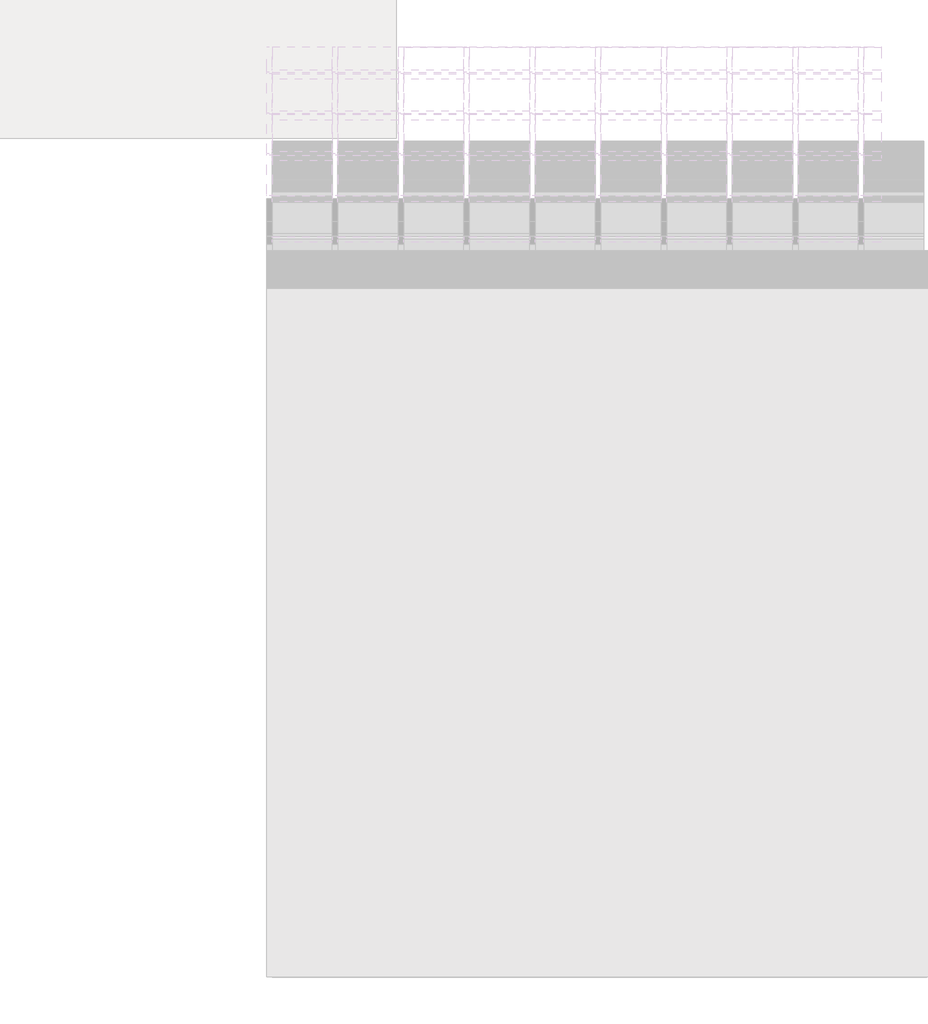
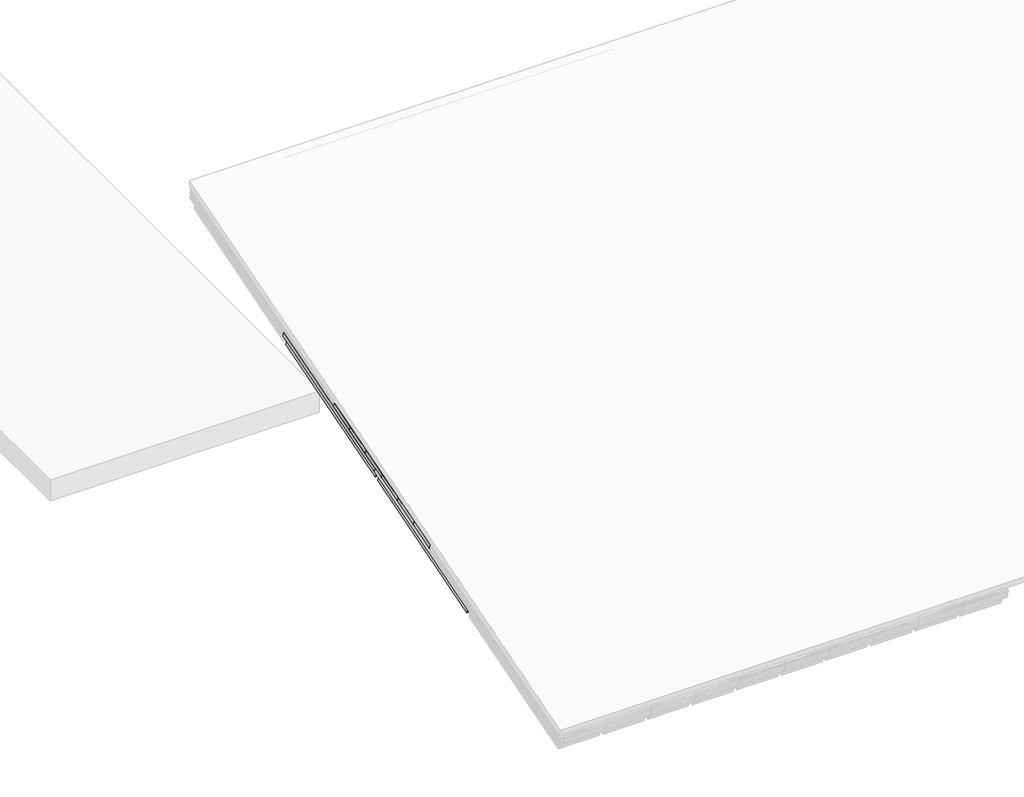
# One storey, part 9 of 57: 84 members, 39 plates.
"""IFC4 building model written with IfcOpenShell, lengths in millimetres."""

from ifc_helpers import new_model, si_unit, origin, place, context, project, spatial, transform, mapped, element, save
from components import rectangular_mullion_59984080, rectangular_mullion_2d2423ea, rectangular_mullion_caibro_e4384bba, rectangular_mullion_caibro_22b168a6, rectangular_mullion_caibro_0993a3cf, rectangular_mullion_caibro_9bd7bc61, rectangular_mullion_caibro_65769db4, empty_system_panel_vazio_178faf58, empty_system_panel_vazio_2c78850d

model = new_model("IFC4")

# Units and contexts
model_context = context("Model", 3, world=origin())
ifc_project = project(units=[si_unit("LENGTHUNIT", "METRE", prefix="MILLI")], contexts=[model_context])

# Site, building, storey
site = spatial("IfcSite", under=ifc_project)
building = spatial("IfcBuilding", under=site)
storey = spatial("IfcBuildingStorey", under=building, Name="Nível 2", Elevation=4100.0)

# Members
placement = place(None, origin())
rectangular_mullion_shape = rectangular_mullion_59984080(model_context)
element("IfcMember", 1, ObjectType="Rectangular Mullion : Ripa", at=placement, inside=storey, context=model_context, shape_type="MappedRepresentation", body=[
    mapped(rectangular_mullion_shape, transform((4164.8996779, 8162.5832694, 3598.8241594), x_axis=(0.0, 0.9578262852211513, 0.2873478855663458), y_axis=(0.0, 0.2873478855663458, -0.9578262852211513), z_axis=(-1.0, 0.0, 0.0))),
])
element("IfcMember", 2, ObjectType="Rectangular Mullion : Ripa", at=placement, inside=storey, context=model_context, shape_type="MappedRepresentation", body=[
    mapped(rectangular_mullion_shape, transform((4761.9544343, 8162.5832694, 3598.8241594), x_axis=(0.0, 0.9578262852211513, 0.2873478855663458), y_axis=(0.0, 0.2873478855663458, -0.9578262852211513), z_axis=(-1.0, 0.0, 0.0))),
])
element("IfcMember", 3, ObjectType="Rectangular Mullion : Ripa", at=placement, inside=storey, context=model_context, shape_type="MappedRepresentation", body=[
    mapped(rectangular_mullion_shape, transform((4164.8996779, 8532.7605281, 3709.877337), x_axis=(0.0, 0.9578262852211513, 0.2873478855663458), y_axis=(0.0, 0.2873478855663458, -0.9578262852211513), z_axis=(-1.0, 0.0, 0.0))),
])
element("IfcMember", 4, ObjectType="Rectangular Mullion : Ripa", at=placement, inside=storey, context=model_context, shape_type="MappedRepresentation", body=[
    mapped(rectangular_mullion_shape, transform((4761.9544343, 8532.7605281, 3709.877337), x_axis=(0.0, 0.9578262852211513, 0.2873478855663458), y_axis=(0.0, 0.2873478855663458, -0.9578262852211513), z_axis=(-1.0, 0.0, 0.0))),
])
element("IfcMember", 5, ObjectType="Rectangular Mullion : Ripa", at=placement, inside=storey, context=model_context, shape_type="MappedRepresentation", body=[
    mapped(rectangular_mullion_shape, transform((4164.8996779, 8902.9377868, 3820.9305146), x_axis=(0.0, 0.9578262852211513, 0.2873478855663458), y_axis=(0.0, 0.2873478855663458, -0.9578262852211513), z_axis=(-1.0, 0.0, 0.0))),
])
element("IfcMember", 6, ObjectType="Rectangular Mullion : Ripa", at=placement, inside=storey, context=model_context, shape_type="MappedRepresentation", body=[
    mapped(rectangular_mullion_shape, transform((4761.9544343, 8902.9377868, 3820.9305146), x_axis=(0.0, 0.9578262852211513, 0.2873478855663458), y_axis=(0.0, 0.2873478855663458, -0.9578262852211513), z_axis=(-1.0, 0.0, 0.0))),
])
element("IfcMember", 7, ObjectType="Rectangular Mullion : Ripa", at=placement, inside=storey, context=model_context, shape_type="MappedRepresentation", body=[
    mapped(rectangular_mullion_shape, transform((2373.7354086, 9273.1150454, 3931.9836922), x_axis=(0.0, 0.9578262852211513, 0.2873478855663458), y_axis=(0.0, 0.2873478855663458, -0.9578262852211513), z_axis=(-1.0, 0.0, 0.0))),
])
element("IfcMember", 8, ObjectType="Rectangular Mullion : Ripa", at=placement, inside=storey, context=model_context, shape_type="MappedRepresentation", body=[
    mapped(rectangular_mullion_shape, transform((2970.790165, 9273.1150454, 3931.9836922), x_axis=(0.0, 0.9578262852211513, 0.2873478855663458), y_axis=(0.0, 0.2873478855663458, -0.9578262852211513), z_axis=(-1.0, 0.0, 0.0))),
])
element("IfcMember", 9, ObjectType="Rectangular Mullion : Ripa", at=placement, inside=storey, context=model_context, shape_type="MappedRepresentation", body=[
    mapped(rectangular_mullion_shape, transform((3567.8449214, 9273.1150454, 3931.9836922), x_axis=(0.0, 0.9578262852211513, 0.2873478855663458), y_axis=(0.0, 0.2873478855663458, -0.9578262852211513), z_axis=(-1.0, 0.0, 0.0))),
])
element("IfcMember", 10, ObjectType="Rectangular Mullion : Ripa", at=placement, inside=storey, context=model_context, shape_type="MappedRepresentation", body=[
    mapped(rectangular_mullion_shape, transform((2373.7354086, 9643.2923041, 4043.0368698), x_axis=(0.0, 0.9578262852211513, 0.2873478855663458), y_axis=(0.0, 0.2873478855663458, -0.9578262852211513), z_axis=(-1.0, 0.0, 0.0))),
])
element("IfcMember", 11, ObjectType="Rectangular Mullion : Ripa", at=placement, inside=storey, context=model_context, shape_type="MappedRepresentation", body=[
    mapped(rectangular_mullion_shape, transform((2970.790165, 9643.2923041, 4043.0368698), x_axis=(0.0, 0.9578262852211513, 0.2873478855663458), y_axis=(0.0, 0.2873478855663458, -0.9578262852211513), z_axis=(-1.0, 0.0, 0.0))),
])
element("IfcMember", 12, ObjectType="Rectangular Mullion : Ripa", at=placement, inside=storey, context=model_context, shape_type="MappedRepresentation", body=[
    mapped(rectangular_mullion_shape, transform((3567.8449214, 9643.2923041, 4043.0368698), x_axis=(0.0, 0.9578262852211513, 0.2873478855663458), y_axis=(0.0, 0.2873478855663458, -0.9578262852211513), z_axis=(-1.0, 0.0, 0.0))),
])
element("IfcMember", 13, ObjectType="Rectangular Mullion : Ripa", at=placement, inside=storey, context=model_context, shape_type="MappedRepresentation", body=[
    mapped(rectangular_mullion_shape, transform((1776.6806519, 10013.4695628, 4154.0900474), x_axis=(0.0, 0.9578262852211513, 0.2873478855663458), y_axis=(0.0, 0.2873478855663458, -0.9578262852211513), z_axis=(-1.0, 0.0, 0.0))),
])
element("IfcMember", 14, ObjectType="Rectangular Mullion : Ripa", at=placement, inside=storey, context=model_context, shape_type="MappedRepresentation", body=[
    mapped(rectangular_mullion_shape, transform((2373.7354086, 10013.4695628, 4154.0900474), x_axis=(0.0, 0.9578262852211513, 0.2873478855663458), y_axis=(0.0, 0.2873478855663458, -0.9578262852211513), z_axis=(-1.0, 0.0, 0.0))),
])
element("IfcMember", 15, ObjectType="Rectangular Mullion : Ripa", at=placement, inside=storey, context=model_context, shape_type="MappedRepresentation", body=[
    mapped(rectangular_mullion_shape, transform((2970.790165, 10013.4695628, 4154.0900474), x_axis=(0.0, 0.9578262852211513, 0.2873478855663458), y_axis=(0.0, 0.2873478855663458, -0.9578262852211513), z_axis=(-1.0, 0.0, 0.0))),
])
element("IfcMember", 16, ObjectType="Rectangular Mullion : Ripa", at=placement, inside=storey, context=model_context, shape_type="MappedRepresentation", body=[
    mapped(rectangular_mullion_shape, transform((3567.8449214, 10013.4695628, 4154.0900474), x_axis=(0.0, 0.9578262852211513, 0.2873478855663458), y_axis=(0.0, 0.2873478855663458, -0.9578262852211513), z_axis=(-1.0, 0.0, 0.0))),
])
element("IfcMember", 17, ObjectType="Rectangular Mullion : Ripa", at=placement, inside=storey, context=model_context, shape_type="MappedRepresentation", body=[
    mapped(rectangular_mullion_shape, transform((1776.6806519, 10383.6468214, 4265.143225), x_axis=(0.0, 0.9578262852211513, 0.2873478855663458), y_axis=(0.0, 0.2873478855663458, -0.9578262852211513), z_axis=(-1.0, 0.0, 0.0))),
])
element("IfcMember", 18, ObjectType="Rectangular Mullion : Ripa", at=placement, inside=storey, context=model_context, shape_type="MappedRepresentation", body=[
    mapped(rectangular_mullion_shape, transform((2373.7354086, 10383.6468214, 4265.143225), x_axis=(0.0, 0.9578262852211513, 0.2873478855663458), y_axis=(0.0, 0.2873478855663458, -0.9578262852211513), z_axis=(-1.0, 0.0, 0.0))),
])
element("IfcMember", 19, ObjectType="Rectangular Mullion : Ripa", at=placement, inside=storey, context=model_context, shape_type="MappedRepresentation", body=[
    mapped(rectangular_mullion_shape, transform((2970.790165, 10383.6468214, 4265.143225), x_axis=(0.0, 0.9578262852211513, 0.2873478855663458), y_axis=(0.0, 0.2873478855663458, -0.9578262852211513), z_axis=(-1.0, 0.0, 0.0))),
])
element("IfcMember", 20, ObjectType="Rectangular Mullion : Ripa", at=placement, inside=storey, context=model_context, shape_type="MappedRepresentation", body=[
    mapped(rectangular_mullion_shape, transform((3567.8449214, 10383.6468214, 4265.143225), x_axis=(0.0, 0.9578262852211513, 0.2873478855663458), y_axis=(0.0, 0.2873478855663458, -0.9578262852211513), z_axis=(-1.0, 0.0, 0.0))),
])
element("IfcMember", 21, ObjectType="Rectangular Mullion : Ripa", at=placement, inside=storey, context=model_context, shape_type="MappedRepresentation", body=[
    mapped(rectangular_mullion_shape, transform((1776.6806519, 10753.8240801, 4376.1964026), x_axis=(0.0, 0.9578262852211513, 0.2873478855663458), y_axis=(0.0, 0.2873478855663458, -0.9578262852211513), z_axis=(-1.0, 0.0, 0.0))),
])
element("IfcMember", 22, ObjectType="Rectangular Mullion : Ripa", at=placement, inside=storey, context=model_context, shape_type="MappedRepresentation", body=[
    mapped(rectangular_mullion_shape, transform((2373.7354086, 10753.8240801, 4376.1964026), x_axis=(0.0, 0.9578262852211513, 0.2873478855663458), y_axis=(0.0, 0.2873478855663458, -0.9578262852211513), z_axis=(-1.0, 0.0, 0.0))),
])
element("IfcMember", 23, ObjectType="Rectangular Mullion : Ripa", at=placement, inside=storey, context=model_context, shape_type="MappedRepresentation", body=[
    mapped(rectangular_mullion_shape, transform((2970.790165, 10753.8240801, 4376.1964026), x_axis=(0.0, 0.9578262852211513, 0.2873478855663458), y_axis=(0.0, 0.2873478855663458, -0.9578262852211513), z_axis=(-1.0, 0.0, 0.0))),
])
element("IfcMember", 24, ObjectType="Rectangular Mullion : Ripa", at=placement, inside=storey, context=model_context, shape_type="MappedRepresentation", body=[
    mapped(rectangular_mullion_shape, transform((3567.8449214, 10753.8240801, 4376.1964026), x_axis=(0.0, 0.9578262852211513, 0.2873478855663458), y_axis=(0.0, 0.2873478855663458, -0.9578262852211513), z_axis=(-1.0, 0.0, 0.0))),
])
element("IfcMember", 25, ObjectType="Rectangular Mullion : Ripa", at=placement, inside=storey, context=model_context, shape_type="MappedRepresentation", body=[
    mapped(rectangular_mullion_shape, transform((1776.6806519, 11124.0013387, 4487.2495802), x_axis=(0.0, 0.9578262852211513, 0.2873478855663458), y_axis=(0.0, 0.2873478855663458, -0.9578262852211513), z_axis=(-1.0, 0.0, 0.0))),
])
element("IfcMember", 26, ObjectType="Rectangular Mullion : Ripa", at=placement, inside=storey, context=model_context, shape_type="MappedRepresentation", body=[
    mapped(rectangular_mullion_shape, transform((2373.7354086, 11124.0013387, 4487.2495802), x_axis=(0.0, 0.9578262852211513, 0.2873478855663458), y_axis=(0.0, 0.2873478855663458, -0.9578262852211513), z_axis=(-1.0, 0.0, 0.0))),
])
element("IfcMember", 27, ObjectType="Rectangular Mullion : Ripa", at=placement, inside=storey, context=model_context, shape_type="MappedRepresentation", body=[
    mapped(rectangular_mullion_shape, transform((2970.790165, 11124.0013387, 4487.2495802), x_axis=(0.0, 0.9578262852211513, 0.2873478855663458), y_axis=(0.0, 0.2873478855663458, -0.9578262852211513), z_axis=(-1.0, 0.0, 0.0))),
])
element("IfcMember", 28, ObjectType="Rectangular Mullion : Ripa", at=placement, inside=storey, context=model_context, shape_type="MappedRepresentation", body=[
    mapped(rectangular_mullion_shape, transform((3567.8449214, 11124.0013387, 4487.2495802), x_axis=(0.0, 0.9578262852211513, 0.2873478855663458), y_axis=(0.0, 0.2873478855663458, -0.9578262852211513), z_axis=(-1.0, 0.0, 0.0))),
])
element("IfcMember", 29, ObjectType="Rectangular Mullion : Ripa", at=placement, inside=storey, context=model_context, shape_type="MappedRepresentation", body=[
    mapped(rectangular_mullion_shape, transform((1776.6806519, 11494.1785974, 4598.3027578), x_axis=(0.0, 0.9578262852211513, 0.2873478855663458), y_axis=(0.0, 0.2873478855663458, -0.9578262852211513), z_axis=(-1.0, 0.0, 0.0))),
])
element("IfcMember", 30, ObjectType="Rectangular Mullion : Ripa", at=placement, inside=storey, context=model_context, shape_type="MappedRepresentation", body=[
    mapped(rectangular_mullion_shape, transform((2373.7354086, 11494.1785974, 4598.3027578), x_axis=(0.0, 0.9578262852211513, 0.2873478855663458), y_axis=(0.0, 0.2873478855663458, -0.9578262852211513), z_axis=(-1.0, 0.0, 0.0))),
])
element("IfcMember", 31, ObjectType="Rectangular Mullion : Ripa", at=placement, inside=storey, context=model_context, shape_type="MappedRepresentation", body=[
    mapped(rectangular_mullion_shape, transform((2970.790165, 11494.1785974, 4598.3027578), x_axis=(0.0, 0.9578262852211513, 0.2873478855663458), y_axis=(0.0, 0.2873478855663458, -0.9578262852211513), z_axis=(-1.0, 0.0, 0.0))),
])
element("IfcMember", 32, ObjectType="Rectangular Mullion : Ripa", at=placement, inside=storey, context=model_context, shape_type="MappedRepresentation", body=[
    mapped(rectangular_mullion_shape, transform((3567.8449214, 11494.1785974, 4598.3027578), x_axis=(0.0, 0.9578262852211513, 0.2873478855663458), y_axis=(0.0, 0.2873478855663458, -0.9578262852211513), z_axis=(-1.0, 0.0, 0.0))),
])
element("IfcMember", 33, ObjectType="Rectangular Mullion : Ripa", at=placement, inside=storey, context=model_context, shape_type="MappedRepresentation", body=[
    mapped(rectangular_mullion_shape, transform((1776.6806519, 11864.3558561, 4709.3559354), x_axis=(0.0, 0.9578262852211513, 0.2873478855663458), y_axis=(0.0, 0.2873478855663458, -0.9578262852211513), z_axis=(-1.0, 0.0, 0.0))),
])
element("IfcMember", 34, ObjectType="Rectangular Mullion : Ripa", at=placement, inside=storey, context=model_context, shape_type="MappedRepresentation", body=[
    mapped(rectangular_mullion_shape, transform((2373.7354086, 11864.3558561, 4709.3559354), x_axis=(0.0, 0.9578262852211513, 0.2873478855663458), y_axis=(0.0, 0.2873478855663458, -0.9578262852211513), z_axis=(-1.0, 0.0, 0.0))),
])
element("IfcMember", 35, ObjectType="Rectangular Mullion : Ripa", at=placement, inside=storey, context=model_context, shape_type="MappedRepresentation", body=[
    mapped(rectangular_mullion_shape, transform((2970.790165, 11864.3558561, 4709.3559354), x_axis=(0.0, 0.9578262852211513, 0.2873478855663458), y_axis=(0.0, 0.2873478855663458, -0.9578262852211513), z_axis=(-1.0, 0.0, 0.0))),
])
element("IfcMember", 36, ObjectType="Rectangular Mullion : Ripa", at=placement, inside=storey, context=model_context, shape_type="MappedRepresentation", body=[
    mapped(rectangular_mullion_shape, transform((3567.8449214, 11864.3558561, 4709.3559354), x_axis=(0.0, 0.9578262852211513, 0.2873478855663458), y_axis=(0.0, 0.2873478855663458, -0.9578262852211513), z_axis=(-1.0, 0.0, 0.0))),
])
rectangular_mullion_2_shape = rectangular_mullion_2d2423ea(model_context)
element("IfcMember", 37, ObjectType="Rectangular Mullion : Terça", at=placement, inside=storey, context=model_context, shape_type="MappedRepresentation", body=[
    mapped(rectangular_mullion_2_shape, transform((2373.7354086, 9159.0196393, 3835.1132313), x_axis=(0.0, 0.9578262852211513, 0.2873478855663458), y_axis=(0.0, 0.2873478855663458, -0.9578262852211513), z_axis=(-1.0, 0.0, 0.0))),
])
element("IfcMember", 38, ObjectType="Rectangular Mullion : Terça", at=placement, inside=storey, context=model_context, shape_type="MappedRepresentation", body=[
    mapped(rectangular_mullion_2_shape, transform((2970.790165, 9159.0196393, 3835.1132313), x_axis=(0.0, 0.9578262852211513, 0.2873478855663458), y_axis=(0.0, 0.2873478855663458, -0.9578262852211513), z_axis=(-1.0, 0.0, 0.0))),
])
element("IfcMember", 39, ObjectType="Rectangular Mullion : Terça", at=placement, inside=storey, context=model_context, shape_type="MappedRepresentation", body=[
    mapped(rectangular_mullion_2_shape, transform((3567.8449214, 9159.0196393, 3835.1132313), x_axis=(0.0, 0.9578262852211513, 0.2873478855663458), y_axis=(0.0, 0.2873478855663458, -0.9578262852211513), z_axis=(-1.0, 0.0, 0.0))),
])
element("IfcMember", 40, ObjectType="Rectangular Mullion : Terça", at=placement, inside=storey, context=model_context, shape_type="MappedRepresentation", body=[
    mapped(rectangular_mullion_2_shape, transform((1776.6806519, 11285.144311, 4472.9506328), x_axis=(0.0, 0.9578262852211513, 0.2873478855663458), y_axis=(0.0, 0.2873478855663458, -0.9578262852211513), z_axis=(-1.0, 0.0, 0.0))),
])
element("IfcMember", 41, ObjectType="Rectangular Mullion : Terça", at=placement, inside=storey, context=model_context, shape_type="MappedRepresentation", body=[
    mapped(rectangular_mullion_2_shape, transform((2373.7354086, 11285.144311, 4472.9506328), x_axis=(0.0, 0.9578262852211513, 0.2873478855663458), y_axis=(0.0, 0.2873478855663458, -0.9578262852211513), z_axis=(-1.0, 0.0, 0.0))),
])
element("IfcMember", 42, ObjectType="Rectangular Mullion : Terça", at=placement, inside=storey, context=model_context, shape_type="MappedRepresentation", body=[
    mapped(rectangular_mullion_2_shape, transform((2970.790165, 11285.144311, 4472.9506328), x_axis=(0.0, 0.9578262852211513, 0.2873478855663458), y_axis=(0.0, 0.2873478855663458, -0.9578262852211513), z_axis=(-1.0, 0.0, 0.0))),
])
element("IfcMember", 43, ObjectType="Rectangular Mullion : Terça", at=placement, inside=storey, context=model_context, shape_type="MappedRepresentation", body=[
    mapped(rectangular_mullion_2_shape, transform((3567.8449214, 11285.144311, 4472.9506328), x_axis=(0.0, 0.9578262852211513, 0.2873478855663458), y_axis=(0.0, 0.2873478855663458, -0.9578262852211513), z_axis=(-1.0, 0.0, 0.0))),
])
rectangular_mullion_caibro_shape = rectangular_mullion_caibro_e4384bba(model_context)
element("IfcMember", 44, ObjectType="Rectangular Mullion : Caibro", at=placement, inside=storey, context=model_context, shape_type="MappedRepresentation", body=[
    mapped(rectangular_mullion_caibro_shape, transform((2348.7354086, 10013.4695628, 4154.0900474), x_axis=(1.0, 0.0, 0.0), y_axis=(0.0, 0.28734788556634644, -0.9578262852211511), z_axis=(0.0, 0.957826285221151, 0.2873478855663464))),
])
element("IfcMember", 45, ObjectType="Rectangular Mullion : Caibro", at=placement, inside=storey, context=model_context, shape_type="MappedRepresentation", body=[
    mapped(rectangular_mullion_caibro_shape, transform((2348.7354086, 10383.6468214, 4265.143225), x_axis=(1.0, 0.0, 0.0), y_axis=(0.0, 0.28734788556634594, -0.9578262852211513), z_axis=(0.0, 0.9578262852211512, 0.2873478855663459))),
])
element("IfcMember", 46, ObjectType="Rectangular Mullion : Caibro", at=placement, inside=storey, context=model_context, shape_type="MappedRepresentation", body=[
    mapped(rectangular_mullion_caibro_shape, transform((2348.7354086, 10753.8240801, 4376.1964026), x_axis=(1.0, 0.0, 0.0), y_axis=(0.0, 0.28734788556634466, -0.9578262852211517), z_axis=(0.0, 0.9578262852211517, 0.28734788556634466))),
])
element("IfcMember", 47, ObjectType="Rectangular Mullion : Caibro", at=placement, inside=storey, context=model_context, shape_type="MappedRepresentation", body=[
    mapped(rectangular_mullion_caibro_shape, transform((2348.7354086, 11124.0013387, 4487.2495802), x_axis=(1.0, 0.0, 0.0), y_axis=(0.0, 0.2873478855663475, -0.9578262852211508), z_axis=(0.0, 0.9578262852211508, 0.2873478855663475))),
])
element("IfcMember", 48, ObjectType="Rectangular Mullion : Caibro", at=placement, inside=storey, context=model_context, shape_type="MappedRepresentation", body=[
    mapped(rectangular_mullion_caibro_shape, transform((2348.7354086, 11494.1785974, 4598.3027578), x_axis=(1.0, 0.0, 0.0), y_axis=(0.0, 0.28734788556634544, -0.9578262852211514), z_axis=(0.0, 0.9578262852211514, 0.28734788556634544))),
])
element("IfcMember", 49, ObjectType="Rectangular Mullion : Caibro", at=placement, inside=storey, context=model_context, shape_type="MappedRepresentation", body=[
    mapped(rectangular_mullion_caibro_shape, transform((2348.7354086, 11864.3558561, 4709.3559354), x_axis=(1.0, 0.0, 0.0), y_axis=(0.0, 0.28734788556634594, -0.9578262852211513), z_axis=(0.0, 0.9578262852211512, 0.2873478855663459))),
])
element("IfcMember", 50, ObjectType="Rectangular Mullion : Caibro", at=placement, inside=storey, context=model_context, shape_type="MappedRepresentation", body=[
    mapped(rectangular_mullion_caibro_shape, transform((2945.790165, 9273.1150454, 3931.9836922), x_axis=(1.0, 0.0, 0.0), y_axis=(0.0, 0.2873478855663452, -0.9578262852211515), z_axis=(0.0, 0.9578262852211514, 0.28734788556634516))),
])
element("IfcMember", 51, ObjectType="Rectangular Mullion : Caibro", at=placement, inside=storey, context=model_context, shape_type="MappedRepresentation", body=[
    mapped(rectangular_mullion_caibro_shape, transform((2945.790165, 9643.2923041, 4043.0368698), x_axis=(1.0, 0.0, 0.0), y_axis=(0.0, 0.2873478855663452, -0.9578262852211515), z_axis=(0.0, 0.9578262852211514, 0.28734788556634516))),
])
element("IfcMember", 52, ObjectType="Rectangular Mullion : Caibro", at=placement, inside=storey, context=model_context, shape_type="MappedRepresentation", body=[
    mapped(rectangular_mullion_caibro_shape, transform((2945.790165, 10013.4695628, 4154.0900474), x_axis=(1.0, 0.0, 0.0), y_axis=(0.0, 0.28734788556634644, -0.9578262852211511), z_axis=(0.0, 0.957826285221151, 0.2873478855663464))),
])
element("IfcMember", 53, ObjectType="Rectangular Mullion : Caibro", at=placement, inside=storey, context=model_context, shape_type="MappedRepresentation", body=[
    mapped(rectangular_mullion_caibro_shape, transform((2945.790165, 10383.6468214, 4265.143225), x_axis=(1.0, 0.0, 0.0), y_axis=(0.0, 0.28734788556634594, -0.9578262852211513), z_axis=(0.0, 0.9578262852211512, 0.2873478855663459))),
])
element("IfcMember", 54, ObjectType="Rectangular Mullion : Caibro", at=placement, inside=storey, context=model_context, shape_type="MappedRepresentation", body=[
    mapped(rectangular_mullion_caibro_shape, transform((2945.790165, 10753.8240801, 4376.1964026), x_axis=(1.0, 0.0, 0.0), y_axis=(0.0, 0.28734788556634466, -0.9578262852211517), z_axis=(0.0, 0.9578262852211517, 0.28734788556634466))),
])
element("IfcMember", 55, ObjectType="Rectangular Mullion : Caibro", at=placement, inside=storey, context=model_context, shape_type="MappedRepresentation", body=[
    mapped(rectangular_mullion_caibro_shape, transform((2945.790165, 11124.0013387, 4487.2495802), x_axis=(1.0, 0.0, 0.0), y_axis=(0.0, 0.2873478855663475, -0.9578262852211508), z_axis=(0.0, 0.9578262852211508, 0.2873478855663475))),
])
element("IfcMember", 56, ObjectType="Rectangular Mullion : Caibro", at=placement, inside=storey, context=model_context, shape_type="MappedRepresentation", body=[
    mapped(rectangular_mullion_caibro_shape, transform((2945.790165, 11494.1785974, 4598.3027578), x_axis=(1.0, 0.0, 0.0), y_axis=(0.0, 0.28734788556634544, -0.9578262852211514), z_axis=(0.0, 0.9578262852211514, 0.28734788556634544))),
])
element("IfcMember", 57, ObjectType="Rectangular Mullion : Caibro", at=placement, inside=storey, context=model_context, shape_type="MappedRepresentation", body=[
    mapped(rectangular_mullion_caibro_shape, transform((2945.790165, 11864.3558561, 4709.3559354), x_axis=(1.0, 0.0, 0.0), y_axis=(0.0, 0.28734788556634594, -0.9578262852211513), z_axis=(0.0, 0.9578262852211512, 0.2873478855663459))),
])
element("IfcMember", 58, ObjectType="Rectangular Mullion : Caibro", at=placement, inside=storey, context=model_context, shape_type="MappedRepresentation", body=[
    mapped(rectangular_mullion_caibro_shape, transform((3542.8449214, 9273.1150454, 3931.9836922), x_axis=(1.0, 0.0, 0.0), y_axis=(0.0, 0.2873478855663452, -0.9578262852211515), z_axis=(0.0, 0.9578262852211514, 0.28734788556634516))),
])
element("IfcMember", 59, ObjectType="Rectangular Mullion : Caibro", at=placement, inside=storey, context=model_context, shape_type="MappedRepresentation", body=[
    mapped(rectangular_mullion_caibro_shape, transform((3542.8449214, 9643.2923041, 4043.0368698), x_axis=(1.0, 0.0, 0.0), y_axis=(0.0, 0.2873478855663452, -0.9578262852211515), z_axis=(0.0, 0.9578262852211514, 0.28734788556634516))),
])
element("IfcMember", 60, ObjectType="Rectangular Mullion : Caibro", at=placement, inside=storey, context=model_context, shape_type="MappedRepresentation", body=[
    mapped(rectangular_mullion_caibro_shape, transform((3542.8449214, 10013.4695628, 4154.0900474), x_axis=(1.0, 0.0, 0.0), y_axis=(0.0, 0.28734788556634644, -0.9578262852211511), z_axis=(0.0, 0.957826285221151, 0.2873478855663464))),
])
element("IfcMember", 61, ObjectType="Rectangular Mullion : Caibro", at=placement, inside=storey, context=model_context, shape_type="MappedRepresentation", body=[
    mapped(rectangular_mullion_caibro_shape, transform((3542.8449214, 10383.6468214, 4265.143225), x_axis=(1.0, 0.0, 0.0), y_axis=(0.0, 0.28734788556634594, -0.9578262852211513), z_axis=(0.0, 0.9578262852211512, 0.2873478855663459))),
])
element("IfcMember", 62, ObjectType="Rectangular Mullion : Caibro", at=placement, inside=storey, context=model_context, shape_type="MappedRepresentation", body=[
    mapped(rectangular_mullion_caibro_shape, transform((3542.8449214, 10753.8240801, 4376.1964026), x_axis=(1.0, 0.0, 0.0), y_axis=(0.0, 0.28734788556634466, -0.9578262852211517), z_axis=(0.0, 0.9578262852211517, 0.28734788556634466))),
])
element("IfcMember", 63, ObjectType="Rectangular Mullion : Caibro", at=placement, inside=storey, context=model_context, shape_type="MappedRepresentation", body=[
    mapped(rectangular_mullion_caibro_shape, transform((3542.8449214, 11124.0013387, 4487.2495802), x_axis=(1.0, 0.0, 0.0), y_axis=(0.0, 0.2873478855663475, -0.9578262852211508), z_axis=(0.0, 0.9578262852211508, 0.2873478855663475))),
])
element("IfcMember", 64, ObjectType="Rectangular Mullion : Caibro", at=placement, inside=storey, context=model_context, shape_type="MappedRepresentation", body=[
    mapped(rectangular_mullion_caibro_shape, transform((3542.8449214, 11494.1785974, 4598.3027578), x_axis=(1.0, 0.0, 0.0), y_axis=(0.0, 0.28734788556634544, -0.9578262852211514), z_axis=(0.0, 0.9578262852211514, 0.28734788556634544))),
])
element("IfcMember", 65, ObjectType="Rectangular Mullion : Caibro", at=placement, inside=storey, context=model_context, shape_type="MappedRepresentation", body=[
    mapped(rectangular_mullion_caibro_shape, transform((3542.8449214, 11864.3558561, 4709.3559354), x_axis=(1.0, 0.0, 0.0), y_axis=(0.0, 0.28734788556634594, -0.9578262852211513), z_axis=(0.0, 0.9578262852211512, 0.2873478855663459))),
])
element("IfcMember", 66, ObjectType="Rectangular Mullion : Caibro", at=placement, inside=storey, context=model_context, shape_type="MappedRepresentation", body=[
    mapped(rectangular_mullion_caibro_shape, transform((4139.8996779, 8162.5832694, 3598.8241594), x_axis=(1.0, 0.0, 0.0), y_axis=(0.0, 0.28734788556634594, -0.9578262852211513), z_axis=(0.0, 0.9578262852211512, 0.2873478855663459))),
])
element("IfcMember", 67, ObjectType="Rectangular Mullion : Caibro", at=placement, inside=storey, context=model_context, shape_type="MappedRepresentation", body=[
    mapped(rectangular_mullion_caibro_shape, transform((4139.8996779, 8532.7605281, 3709.877337), x_axis=(1.0, 0.0, 0.0), y_axis=(0.0, 0.2873478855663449, -0.9578262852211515), z_axis=(0.0, 0.9578262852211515, 0.2873478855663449))),
])
element("IfcMember", 68, ObjectType="Rectangular Mullion : Caibro", at=placement, inside=storey, context=model_context, shape_type="MappedRepresentation", body=[
    mapped(rectangular_mullion_caibro_shape, transform((4139.8996779, 8902.9377868, 3820.9305146), x_axis=(1.0, 0.0, 0.0), y_axis=(0.0, 0.2873478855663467, -0.9578262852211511), z_axis=(0.0, 0.9578262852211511, 0.2873478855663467))),
])
element("IfcMember", 69, ObjectType="Rectangular Mullion : Caibro", at=placement, inside=storey, context=model_context, shape_type="MappedRepresentation", body=[
    mapped(rectangular_mullion_caibro_shape, transform((4736.9544343, 8162.5832694, 3598.8241594), x_axis=(1.0, 0.0, 0.0), y_axis=(0.0, 0.28734788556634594, -0.9578262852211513), z_axis=(0.0, 0.9578262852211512, 0.2873478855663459))),
])
element("IfcMember", 70, ObjectType="Rectangular Mullion : Caibro", at=placement, inside=storey, context=model_context, shape_type="MappedRepresentation", body=[
    mapped(rectangular_mullion_caibro_shape, transform((4736.9544343, 8532.7605281, 3709.877337), x_axis=(1.0, 0.0, 0.0), y_axis=(0.0, 0.2873478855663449, -0.9578262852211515), z_axis=(0.0, 0.9578262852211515, 0.2873478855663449))),
])
element("IfcMember", 71, ObjectType="Rectangular Mullion : Caibro", at=placement, inside=storey, context=model_context, shape_type="MappedRepresentation", body=[
    mapped(rectangular_mullion_caibro_shape, transform((4736.9544343, 8902.9377868, 3820.9305146), x_axis=(1.0, 0.0, 0.0), y_axis=(0.0, 0.2873478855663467, -0.9578262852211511), z_axis=(0.0, 0.9578262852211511, 0.2873478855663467))),
])
rectangular_mullion_caibro_2_shape = rectangular_mullion_caibro_22b168a6(model_context)
element("IfcMember", 72, ObjectType="Rectangular Mullion : Caibro", at=placement, inside=storey, context=model_context, shape_type="MappedRepresentation", body=[
    mapped(rectangular_mullion_caibro_2_shape, transform((1726.6806519, 10013.4695628, 4154.0900474), x_axis=(-1.0, 0.0, 0.0), y_axis=(0.0, 0.28734788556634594, -0.9578262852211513), z_axis=(0.0, -0.9578262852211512, -0.2873478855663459))),
])
element("IfcMember", 73, ObjectType="Rectangular Mullion : Caibro", at=placement, inside=storey, context=model_context, shape_type="MappedRepresentation", body=[
    mapped(rectangular_mullion_caibro_2_shape, transform((1726.6806519, 10383.6468214, 4265.143225), x_axis=(-1.0, 0.0, 0.0), y_axis=(0.0, 0.28734788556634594, -0.9578262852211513), z_axis=(0.0, -0.9578262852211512, -0.2873478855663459))),
])
element("IfcMember", 74, ObjectType="Rectangular Mullion : Caibro", at=placement, inside=storey, context=model_context, shape_type="MappedRepresentation", body=[
    mapped(rectangular_mullion_caibro_2_shape, transform((1726.6806519, 10753.8240801, 4376.1964026), x_axis=(-1.0, 0.0, 0.0), y_axis=(0.0, 0.28734788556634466, -0.9578262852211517), z_axis=(0.0, -0.9578262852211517, -0.28734788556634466))),
])
element("IfcMember", 75, ObjectType="Rectangular Mullion : Caibro", at=placement, inside=storey, context=model_context, shape_type="MappedRepresentation", body=[
    mapped(rectangular_mullion_caibro_2_shape, transform((1726.6806519, 11124.0013387, 4487.2495802), x_axis=(-1.0, 0.0, 0.0), y_axis=(0.0, 0.287347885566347, -0.9578262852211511), z_axis=(0.0, -0.9578262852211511, -0.287347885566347))),
])
element("IfcMember", 76, ObjectType="Rectangular Mullion : Caibro", at=placement, inside=storey, context=model_context, shape_type="MappedRepresentation", body=[
    mapped(rectangular_mullion_caibro_2_shape, transform((1726.6806519, 11494.1785974, 4598.3027578), x_axis=(-1.0, 0.0, 0.0), y_axis=(0.0, 0.28734788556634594, -0.9578262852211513), z_axis=(0.0, -0.9578262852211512, -0.2873478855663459))),
])
element("IfcMember", 77, ObjectType="Rectangular Mullion : Caibro", at=placement, inside=storey, context=model_context, shape_type="MappedRepresentation", body=[
    mapped(rectangular_mullion_caibro_2_shape, transform((1726.6806519, 11864.3558561, 4709.3559354), x_axis=(-1.0, 0.0, 0.0), y_axis=(0.0, 0.2873478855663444, -0.9578262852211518), z_axis=(0.0, -0.9578262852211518, -0.2873478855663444))),
])
rectangular_mullion_caibro_3_shape = rectangular_mullion_caibro_0993a3cf(model_context)
element("IfcMember", 78, ObjectType="Rectangular Mullion : Caibro", at=placement, inside=storey, context=model_context, shape_type="MappedRepresentation", body=[
    mapped(rectangular_mullion_caibro_3_shape, transform((2348.7354086, 9159.0196393, 3835.1132313), x_axis=(1.0, 0.0, 0.0), y_axis=(0.0, 0.2873478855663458, -0.9578262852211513), z_axis=(0.0, 0.9578262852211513, 0.2873478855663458))),
])
element("IfcMember", 79, ObjectType="Rectangular Mullion : Caibro", at=placement, inside=storey, context=model_context, shape_type="MappedRepresentation", body=[
    mapped(rectangular_mullion_caibro_3_shape, transform((2945.790165, 9159.0196393, 3835.1132313), x_axis=(1.0, 0.0, 0.0), y_axis=(0.0, 0.2873478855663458, -0.9578262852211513), z_axis=(0.0, 0.9578262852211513, 0.2873478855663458))),
])
element("IfcMember", 80, ObjectType="Rectangular Mullion : Caibro", at=placement, inside=storey, context=model_context, shape_type="MappedRepresentation", body=[
    mapped(rectangular_mullion_caibro_3_shape, transform((3542.8449214, 9159.0196393, 3835.1132313), x_axis=(1.0, 0.0, 0.0), y_axis=(0.0, 0.2873478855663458, -0.9578262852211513), z_axis=(0.0, 0.9578262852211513, 0.2873478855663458))),
])
rectangular_mullion_caibro_4_shape = rectangular_mullion_caibro_9bd7bc61(model_context)
element("IfcMember", 81, ObjectType="Rectangular Mullion : Caibro", at=placement, inside=storey, context=model_context, shape_type="MappedRepresentation", body=[
    mapped(rectangular_mullion_caibro_4_shape, transform((2348.7354086, 11285.144311, 4472.9506328), x_axis=(1.0, 0.0, 0.0), y_axis=(0.0, 0.28734788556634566, -0.9578262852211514), z_axis=(0.0, 0.9578262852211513, 0.2873478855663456))),
])
element("IfcMember", 82, ObjectType="Rectangular Mullion : Caibro", at=placement, inside=storey, context=model_context, shape_type="MappedRepresentation", body=[
    mapped(rectangular_mullion_caibro_4_shape, transform((2945.790165, 11285.144311, 4472.9506328), x_axis=(1.0, 0.0, 0.0), y_axis=(0.0, 0.28734788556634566, -0.9578262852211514), z_axis=(0.0, 0.9578262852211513, 0.2873478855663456))),
])
element("IfcMember", 83, ObjectType="Rectangular Mullion : Caibro", at=placement, inside=storey, context=model_context, shape_type="MappedRepresentation", body=[
    mapped(rectangular_mullion_caibro_4_shape, transform((3542.8449214, 11285.144311, 4472.9506328), x_axis=(1.0, 0.0, 0.0), y_axis=(0.0, 0.28734788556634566, -0.9578262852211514), z_axis=(0.0, 0.9578262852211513, 0.2873478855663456))),
])
rectangular_mullion_caibro_5_shape = rectangular_mullion_caibro_65769db4(model_context)
element("IfcMember", 84, ObjectType="Rectangular Mullion : Caibro", at=placement, inside=storey, context=model_context, shape_type="MappedRepresentation", body=[
    mapped(rectangular_mullion_caibro_5_shape, transform((1726.6806519, 11285.144311, 4472.9506328), x_axis=(-1.0, 0.0, 0.0), y_axis=(0.0, 0.28734788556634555, -0.9578262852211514), z_axis=(0.0, -0.9578262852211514, -0.28734788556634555))),
])

# Plates
empty_system_panel_vazio_shape = empty_system_panel_vazio_178faf58(model_context)
element("IfcPlate", 85, ObjectType="Empty System Panel : Vazio", at=placement, inside=storey, context=model_context, shape_type="MappedRepresentation", body=[
    mapped(empty_system_panel_vazio_shape, transform((4438.4270561, 8162.5832694, 3598.8241594), x_axis=(1.0, 0.0, 0.0), y_axis=(0.0, 0.2873478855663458, -0.9578262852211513), z_axis=(0.0, 0.9578262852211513, 0.2873478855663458))),
])
element("IfcPlate", 86, ObjectType="Empty System Panel : Vazio", at=placement, inside=storey, context=model_context, shape_type="MappedRepresentation", body=[
    mapped(empty_system_panel_vazio_shape, transform((4438.4270561, 8532.7605281, 3709.877337), x_axis=(1.0, 0.0, 0.0), y_axis=(0.0, 0.2873478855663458, -0.9578262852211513), z_axis=(0.0, 0.9578262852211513, 0.2873478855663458))),
])
element("IfcPlate", 87, ObjectType="Empty System Panel : Vazio", at=placement, inside=storey, context=model_context, shape_type="MappedRepresentation", body=[
    mapped(empty_system_panel_vazio_shape, transform((4438.4270561, 8902.9377868, 3820.9305146), x_axis=(1.0, 0.0, 0.0), y_axis=(0.0, 0.2873478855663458, -0.9578262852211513), z_axis=(0.0, 0.9578262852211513, 0.2873478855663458))),
])
element("IfcPlate", 88, ObjectType="Empty System Panel : Vazio", at=placement, inside=storey, context=model_context, shape_type="MappedRepresentation", body=[
    mapped(empty_system_panel_vazio_shape, transform((3244.3175432, 9273.1150454, 3931.9836922), x_axis=(1.0, 0.0, 0.0), y_axis=(0.0, 0.2873478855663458, -0.9578262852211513), z_axis=(0.0, 0.9578262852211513, 0.2873478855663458))),
])
element("IfcPlate", 89, ObjectType="Empty System Panel : Vazio", at=placement, inside=storey, context=model_context, shape_type="MappedRepresentation", body=[
    mapped(empty_system_panel_vazio_shape, transform((3841.3722996, 9273.1150454, 3931.9836922), x_axis=(1.0, 0.0, 0.0), y_axis=(0.0, 0.2873478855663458, -0.9578262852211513), z_axis=(0.0, 0.9578262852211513, 0.2873478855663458))),
])
element("IfcPlate", 90, ObjectType="Empty System Panel : Vazio", at=placement, inside=storey, context=model_context, shape_type="MappedRepresentation", body=[
    mapped(empty_system_panel_vazio_shape, transform((3244.3175432, 9643.2923041, 4043.0368698), x_axis=(1.0, 0.0, 0.0), y_axis=(0.0, 0.2873478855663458, -0.9578262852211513), z_axis=(0.0, 0.9578262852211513, 0.2873478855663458))),
])
element("IfcPlate", 91, ObjectType="Empty System Panel : Vazio", at=placement, inside=storey, context=model_context, shape_type="MappedRepresentation", body=[
    mapped(empty_system_panel_vazio_shape, transform((3841.3722996, 9643.2923041, 4043.0368698), x_axis=(1.0, 0.0, 0.0), y_axis=(0.0, 0.2873478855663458, -0.9578262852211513), z_axis=(0.0, 0.9578262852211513, 0.2873478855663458))),
])
element("IfcPlate", 92, ObjectType="Empty System Panel : Vazio", at=placement, inside=storey, context=model_context, shape_type="MappedRepresentation", body=[
    mapped(empty_system_panel_vazio_shape, transform((2050.2080302, 10013.4695628, 4154.0900474), x_axis=(1.0, 0.0, 0.0), y_axis=(0.0, 0.2873478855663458, -0.9578262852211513), z_axis=(0.0, 0.9578262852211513, 0.2873478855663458))),
])
element("IfcPlate", 93, ObjectType="Empty System Panel : Vazio", at=placement, inside=storey, context=model_context, shape_type="MappedRepresentation", body=[
    mapped(empty_system_panel_vazio_shape, transform((2647.2627868, 10013.4695628, 4154.0900474), x_axis=(1.0, 0.0, 0.0), y_axis=(0.0, 0.2873478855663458, -0.9578262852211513), z_axis=(0.0, 0.9578262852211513, 0.2873478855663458))),
])
element("IfcPlate", 94, ObjectType="Empty System Panel : Vazio", at=placement, inside=storey, context=model_context, shape_type="MappedRepresentation", body=[
    mapped(empty_system_panel_vazio_shape, transform((3244.3175432, 10013.4695628, 4154.0900474), x_axis=(1.0, 0.0, 0.0), y_axis=(0.0, 0.2873478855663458, -0.9578262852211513), z_axis=(0.0, 0.9578262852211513, 0.2873478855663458))),
])
element("IfcPlate", 95, ObjectType="Empty System Panel : Vazio", at=placement, inside=storey, context=model_context, shape_type="MappedRepresentation", body=[
    mapped(empty_system_panel_vazio_shape, transform((3841.3722996, 10013.4695628, 4154.0900474), x_axis=(1.0, 0.0, 0.0), y_axis=(0.0, 0.2873478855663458, -0.9578262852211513), z_axis=(0.0, 0.9578262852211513, 0.2873478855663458))),
])
element("IfcPlate", 96, ObjectType="Empty System Panel : Vazio", at=placement, inside=storey, context=model_context, shape_type="MappedRepresentation", body=[
    mapped(empty_system_panel_vazio_shape, transform((2050.2080302, 10383.6468214, 4265.143225), x_axis=(1.0, 0.0, 0.0), y_axis=(0.0, 0.2873478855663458, -0.9578262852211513), z_axis=(0.0, 0.9578262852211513, 0.2873478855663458))),
])
element("IfcPlate", 97, ObjectType="Empty System Panel : Vazio", at=placement, inside=storey, context=model_context, shape_type="MappedRepresentation", body=[
    mapped(empty_system_panel_vazio_shape, transform((2647.2627868, 10383.6468214, 4265.143225), x_axis=(1.0, 0.0, 0.0), y_axis=(0.0, 0.2873478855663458, -0.9578262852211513), z_axis=(0.0, 0.9578262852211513, 0.2873478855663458))),
])
element("IfcPlate", 98, ObjectType="Empty System Panel : Vazio", at=placement, inside=storey, context=model_context, shape_type="MappedRepresentation", body=[
    mapped(empty_system_panel_vazio_shape, transform((3244.3175432, 10383.6468214, 4265.143225), x_axis=(1.0, 0.0, 0.0), y_axis=(0.0, 0.2873478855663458, -0.9578262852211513), z_axis=(0.0, 0.9578262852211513, 0.2873478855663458))),
])
element("IfcPlate", 99, ObjectType="Empty System Panel : Vazio", at=placement, inside=storey, context=model_context, shape_type="MappedRepresentation", body=[
    mapped(empty_system_panel_vazio_shape, transform((3841.3722996, 10383.6468214, 4265.143225), x_axis=(1.0, 0.0, 0.0), y_axis=(0.0, 0.2873478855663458, -0.9578262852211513), z_axis=(0.0, 0.9578262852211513, 0.2873478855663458))),
])
element("IfcPlate", 100, ObjectType="Empty System Panel : Vazio", at=placement, inside=storey, context=model_context, shape_type="MappedRepresentation", body=[
    mapped(empty_system_panel_vazio_shape, transform((2050.2080302, 10753.8240801, 4376.1964026), x_axis=(1.0, 0.0, 0.0), y_axis=(0.0, 0.2873478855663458, -0.9578262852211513), z_axis=(0.0, 0.9578262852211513, 0.2873478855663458))),
])
element("IfcPlate", 101, ObjectType="Empty System Panel : Vazio", at=placement, inside=storey, context=model_context, shape_type="MappedRepresentation", body=[
    mapped(empty_system_panel_vazio_shape, transform((2647.2627868, 10753.8240801, 4376.1964026), x_axis=(1.0, 0.0, 0.0), y_axis=(0.0, 0.2873478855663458, -0.9578262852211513), z_axis=(0.0, 0.9578262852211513, 0.2873478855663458))),
])
element("IfcPlate", 102, ObjectType="Empty System Panel : Vazio", at=placement, inside=storey, context=model_context, shape_type="MappedRepresentation", body=[
    mapped(empty_system_panel_vazio_shape, transform((3244.3175432, 10753.8240801, 4376.1964026), x_axis=(1.0, 0.0, 0.0), y_axis=(0.0, 0.2873478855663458, -0.9578262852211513), z_axis=(0.0, 0.9578262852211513, 0.2873478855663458))),
])
element("IfcPlate", 103, ObjectType="Empty System Panel : Vazio", at=placement, inside=storey, context=model_context, shape_type="MappedRepresentation", body=[
    mapped(empty_system_panel_vazio_shape, transform((3841.3722996, 10753.8240801, 4376.1964026), x_axis=(1.0, 0.0, 0.0), y_axis=(0.0, 0.2873478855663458, -0.9578262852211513), z_axis=(0.0, 0.9578262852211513, 0.2873478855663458))),
])
element("IfcPlate", 104, ObjectType="Empty System Panel : Vazio", at=placement, inside=storey, context=model_context, shape_type="MappedRepresentation", body=[
    mapped(empty_system_panel_vazio_shape, transform((2050.2080302, 11124.0013387, 4487.2495802), x_axis=(1.0, 0.0, 0.0), y_axis=(0.0, 0.2873478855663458, -0.9578262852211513), z_axis=(0.0, 0.9578262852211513, 0.2873478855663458))),
])
element("IfcPlate", 105, ObjectType="Empty System Panel : Vazio", at=placement, inside=storey, context=model_context, shape_type="MappedRepresentation", body=[
    mapped(empty_system_panel_vazio_shape, transform((2647.2627868, 11124.0013387, 4487.2495802), x_axis=(1.0, 0.0, 0.0), y_axis=(0.0, 0.2873478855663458, -0.9578262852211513), z_axis=(0.0, 0.9578262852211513, 0.2873478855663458))),
])
element("IfcPlate", 106, ObjectType="Empty System Panel : Vazio", at=placement, inside=storey, context=model_context, shape_type="MappedRepresentation", body=[
    mapped(empty_system_panel_vazio_shape, transform((3244.3175432, 11124.0013387, 4487.2495802), x_axis=(1.0, 0.0, 0.0), y_axis=(0.0, 0.2873478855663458, -0.9578262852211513), z_axis=(0.0, 0.9578262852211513, 0.2873478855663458))),
])
element("IfcPlate", 107, ObjectType="Empty System Panel : Vazio", at=placement, inside=storey, context=model_context, shape_type="MappedRepresentation", body=[
    mapped(empty_system_panel_vazio_shape, transform((3841.3722996, 11124.0013387, 4487.2495802), x_axis=(1.0, 0.0, 0.0), y_axis=(0.0, 0.2873478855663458, -0.9578262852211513), z_axis=(0.0, 0.9578262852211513, 0.2873478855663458))),
])
element("IfcPlate", 108, ObjectType="Empty System Panel : Vazio", at=placement, inside=storey, context=model_context, shape_type="MappedRepresentation", body=[
    mapped(empty_system_panel_vazio_shape, transform((2050.2080302, 11494.1785974, 4598.3027578), x_axis=(1.0, 0.0, 0.0), y_axis=(0.0, 0.2873478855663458, -0.9578262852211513), z_axis=(0.0, 0.9578262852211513, 0.2873478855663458))),
])
element("IfcPlate", 109, ObjectType="Empty System Panel : Vazio", at=placement, inside=storey, context=model_context, shape_type="MappedRepresentation", body=[
    mapped(empty_system_panel_vazio_shape, transform((2647.2627868, 11494.1785974, 4598.3027578), x_axis=(1.0, 0.0, 0.0), y_axis=(0.0, 0.2873478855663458, -0.9578262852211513), z_axis=(0.0, 0.9578262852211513, 0.2873478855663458))),
])
element("IfcPlate", 110, ObjectType="Empty System Panel : Vazio", at=placement, inside=storey, context=model_context, shape_type="MappedRepresentation", body=[
    mapped(empty_system_panel_vazio_shape, transform((3244.3175432, 11494.1785974, 4598.3027578), x_axis=(1.0, 0.0, 0.0), y_axis=(0.0, 0.2873478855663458, -0.9578262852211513), z_axis=(0.0, 0.9578262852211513, 0.2873478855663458))),
])
element("IfcPlate", 111, ObjectType="Empty System Panel : Vazio", at=placement, inside=storey, context=model_context, shape_type="MappedRepresentation", body=[
    mapped(empty_system_panel_vazio_shape, transform((3841.3722996, 11494.1785974, 4598.3027578), x_axis=(1.0, 0.0, 0.0), y_axis=(0.0, 0.2873478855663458, -0.9578262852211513), z_axis=(0.0, 0.9578262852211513, 0.2873478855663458))),
])
element("IfcPlate", 112, ObjectType="Empty System Panel : Vazio", at=placement, inside=storey, context=model_context, shape_type="MappedRepresentation", body=[
    mapped(empty_system_panel_vazio_shape, transform((2050.2080302, 11864.3558561, 4709.3559354), x_axis=(1.0, 0.0, 0.0), y_axis=(0.0, 0.2873478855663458, -0.9578262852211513), z_axis=(0.0, 0.9578262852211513, 0.2873478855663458))),
])
element("IfcPlate", 113, ObjectType="Empty System Panel : Vazio", at=placement, inside=storey, context=model_context, shape_type="MappedRepresentation", body=[
    mapped(empty_system_panel_vazio_shape, transform((2647.2627868, 11864.3558561, 4709.3559354), x_axis=(1.0, 0.0, 0.0), y_axis=(0.0, 0.2873478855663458, -0.9578262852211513), z_axis=(0.0, 0.9578262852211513, 0.2873478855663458))),
])
element("IfcPlate", 114, ObjectType="Empty System Panel : Vazio", at=placement, inside=storey, context=model_context, shape_type="MappedRepresentation", body=[
    mapped(empty_system_panel_vazio_shape, transform((3244.3175432, 11864.3558561, 4709.3559354), x_axis=(1.0, 0.0, 0.0), y_axis=(0.0, 0.2873478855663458, -0.9578262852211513), z_axis=(0.0, 0.9578262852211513, 0.2873478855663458))),
])
element("IfcPlate", 115, ObjectType="Empty System Panel : Vazio", at=placement, inside=storey, context=model_context, shape_type="MappedRepresentation", body=[
    mapped(empty_system_panel_vazio_shape, transform((3841.3722996, 11864.3558561, 4709.3559354), x_axis=(1.0, 0.0, 0.0), y_axis=(0.0, 0.2873478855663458, -0.9578262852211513), z_axis=(0.0, 0.9578262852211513, 0.2873478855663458))),
])
empty_system_panel_vazio_2_shape = empty_system_panel_vazio_2c78850d(model_context)
element("IfcPlate", 116, ObjectType="Empty System Panel : Vazio", at=placement, inside=storey, context=model_context, shape_type="MappedRepresentation", body=[
    mapped(empty_system_panel_vazio_2_shape, transform((2050.2080302, 9187.7544279, 3843.7336679), x_axis=(1.0, 0.0, 0.0), y_axis=(0.0, 0.2873478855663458, -0.9578262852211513), z_axis=(0.0, 0.9578262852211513, 0.2873478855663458))),
])
element("IfcPlate", 117, ObjectType="Empty System Panel : Vazio", at=placement, inside=storey, context=model_context, shape_type="MappedRepresentation", body=[
    mapped(empty_system_panel_vazio_2_shape, transform((2647.2627868, 9187.7544279, 3843.7336679), x_axis=(1.0, 0.0, 0.0), y_axis=(0.0, 0.2873478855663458, -0.9578262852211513), z_axis=(0.0, 0.9578262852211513, 0.2873478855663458))),
])
element("IfcPlate", 118, ObjectType="Empty System Panel : Vazio", at=placement, inside=storey, context=model_context, shape_type="MappedRepresentation", body=[
    mapped(empty_system_panel_vazio_2_shape, transform((3244.3175432, 9187.7544279, 3843.7336679), x_axis=(1.0, 0.0, 0.0), y_axis=(0.0, 0.2873478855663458, -0.9578262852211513), z_axis=(0.0, 0.9578262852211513, 0.2873478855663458))),
])
element("IfcPlate", 119, ObjectType="Empty System Panel : Vazio", at=placement, inside=storey, context=model_context, shape_type="MappedRepresentation", body=[
    mapped(empty_system_panel_vazio_2_shape, transform((3841.3722996, 9187.7544279, 3843.7336679), x_axis=(1.0, 0.0, 0.0), y_axis=(0.0, 0.2873478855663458, -0.9578262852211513), z_axis=(0.0, 0.9578262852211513, 0.2873478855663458))),
])
element("IfcPlate", 120, ObjectType="Empty System Panel : Vazio", at=placement, inside=storey, context=model_context, shape_type="MappedRepresentation", body=[
    mapped(empty_system_panel_vazio_2_shape, transform((2050.2080302, 11313.8790995, 4481.5710693), x_axis=(1.0, 0.0, 0.0), y_axis=(0.0, 0.2873478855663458, -0.9578262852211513), z_axis=(0.0, 0.9578262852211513, 0.2873478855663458))),
])
element("IfcPlate", 121, ObjectType="Empty System Panel : Vazio", at=placement, inside=storey, context=model_context, shape_type="MappedRepresentation", body=[
    mapped(empty_system_panel_vazio_2_shape, transform((2647.2627868, 11313.8790995, 4481.5710693), x_axis=(1.0, 0.0, 0.0), y_axis=(0.0, 0.2873478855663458, -0.9578262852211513), z_axis=(0.0, 0.9578262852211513, 0.2873478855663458))),
])
element("IfcPlate", 122, ObjectType="Empty System Panel : Vazio", at=placement, inside=storey, context=model_context, shape_type="MappedRepresentation", body=[
    mapped(empty_system_panel_vazio_2_shape, transform((3244.3175432, 11313.8790995, 4481.5710693), x_axis=(1.0, 0.0, 0.0), y_axis=(0.0, 0.2873478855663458, -0.9578262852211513), z_axis=(0.0, 0.9578262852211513, 0.2873478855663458))),
])
element("IfcPlate", 123, ObjectType="Empty System Panel : Vazio", at=placement, inside=storey, context=model_context, shape_type="MappedRepresentation", body=[
    mapped(empty_system_panel_vazio_2_shape, transform((3841.3722996, 11313.8790995, 4481.5710693), x_axis=(1.0, 0.0, 0.0), y_axis=(0.0, 0.2873478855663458, -0.9578262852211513), z_axis=(0.0, 0.9578262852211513, 0.2873478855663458))),
])

save(model, "model.ifc")
